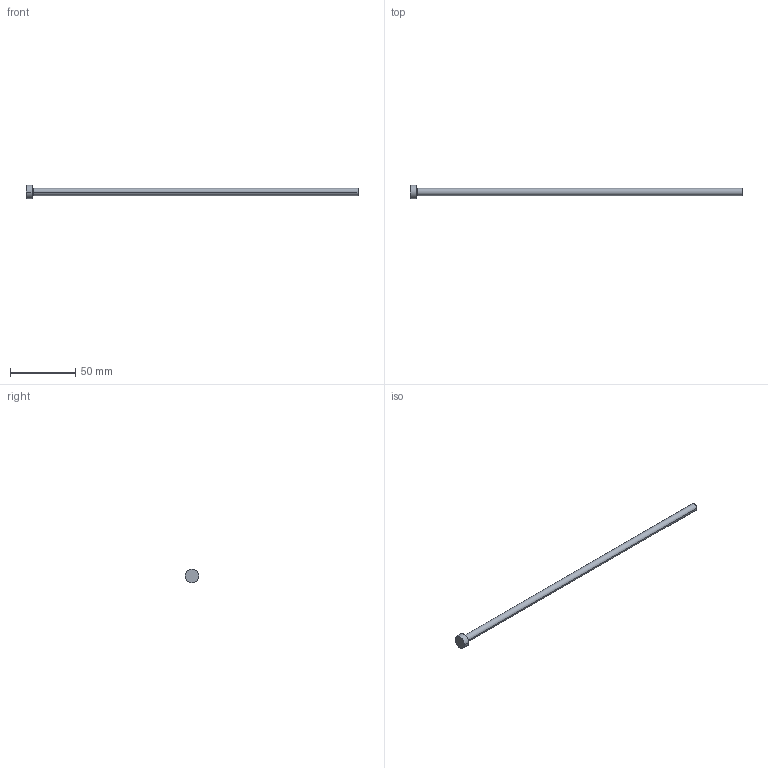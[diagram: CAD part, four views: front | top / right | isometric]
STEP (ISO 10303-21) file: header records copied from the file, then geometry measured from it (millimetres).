
FILE_DESCRIPTION (( 'STEP AP214' ), '1' );
FILE_NAME ('P15-10.STEP', '2020-03-11T18:30:36', ( '' ), ( '' ), 'SwSTEP 2.0', 'SolidWorks 2018', '' );
FILE_SCHEMA (( 'AUTOMOTIVE_DESIGN' ));
Length unit declared in the file: inch
Products named in the file (1): P15-10
Bounding box: 254 x 10.32 x 10.32 mm (x, y, z)
Volume: 6426.9 mm3; surface area: 4656.9 mm2
Topology: 1 solids, 1 shells, 13 faces, 24 edges, 14 vertices
Faces by surface type: cone 4, cylinder 4, plane 3, torus 2
Entity records: 366 total; most frequent: DIRECTION 68, CARTESIAN_POINT 52, ORIENTED_EDGE 48, AXIS2_PLACEMENT_3D 30, EDGE_CURVE 24, CIRCLE 16, VERTEX_POINT 14, EDGE_LOOP 14
